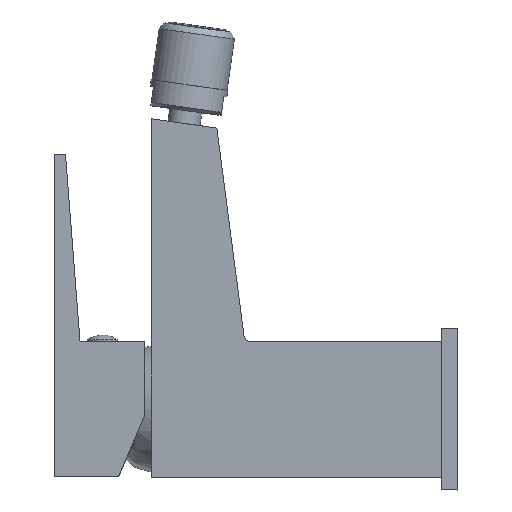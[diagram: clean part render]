
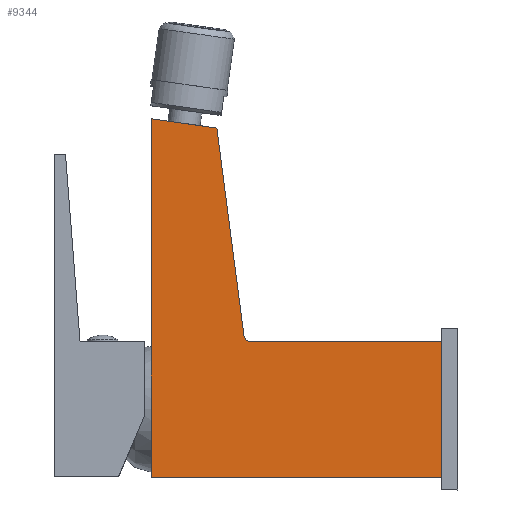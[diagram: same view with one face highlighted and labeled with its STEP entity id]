
A CAD part, left-side view. The second image highlights one B-rep face of the part: STEP entity #9344.
In plain terms, the highlighted planar face has unit normal (-1, 0, 0).
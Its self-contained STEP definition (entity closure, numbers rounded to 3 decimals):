
#414=PLANE('',#10185);
#818=FACE_OUTER_BOUND('',#1371,.T.);
#1371=EDGE_LOOP('',(#7773,#7774,#7775,#7776,#7777,#7778,#7779));
#1941=CIRCLE('',#10186,2.);
#2735=LINE('',#27104,#3330);
#2743=LINE('',#27125,#3338);
#2747=LINE('',#27133,#3342);
#2749=LINE('',#27138,#3344);
#2750=LINE('',#27140,#3345);
#2751=LINE('',#27141,#3346);
#3330=VECTOR('',#12119,10.);
#3338=VECTOR('',#12137,10.);
#3342=VECTOR('',#12143,10.);
#3344=VECTOR('',#12147,10.);
#3345=VECTOR('',#12148,10.);
#3346=VECTOR('',#12149,10.);
#4207=VERTEX_POINT('',#27102);
#4208=VERTEX_POINT('',#27103);
#4216=VERTEX_POINT('',#27124);
#4218=VERTEX_POINT('',#27130);
#4220=VERTEX_POINT('',#27136);
#4221=VERTEX_POINT('',#27137);
#4222=VERTEX_POINT('',#27139);
#5469=EDGE_CURVE('',#4207,#4208,#2735,.T.);
#5479=EDGE_CURVE('',#4216,#4207,#2743,.T.);
#5483=EDGE_CURVE('',#4208,#4218,#2747,.T.);
#5485=EDGE_CURVE('',#4220,#4221,#2749,.T.);
#5486=EDGE_CURVE('',#4221,#4222,#2750,.T.);
#5487=EDGE_CURVE('',#4222,#4216,#2751,.T.);
#5488=EDGE_CURVE('',#4220,#4218,#1941,.T.);
#7773=ORIENTED_EDGE('',*,*,#5485,.T.);
#7774=ORIENTED_EDGE('',*,*,#5486,.T.);
#7775=ORIENTED_EDGE('',*,*,#5487,.T.);
#7776=ORIENTED_EDGE('',*,*,#5479,.T.);
#7777=ORIENTED_EDGE('',*,*,#5469,.T.);
#7778=ORIENTED_EDGE('',*,*,#5483,.T.);
#7779=ORIENTED_EDGE('',*,*,#5488,.F.);
#9344=ADVANCED_FACE('',(#818),#414,.T.);
#10185=AXIS2_PLACEMENT_3D('',#27135,#12145,#12146);
#10186=AXIS2_PLACEMENT_3D('',#27142,#12150,#12151);
#12119=DIRECTION('',(0.,0.,1.));
#12137=DIRECTION('',(0.,-1.,0.));
#12143=DIRECTION('',(0.,1.,0.));
#12145=DIRECTION('center_axis',(-1.,0.,0.));
#12146=DIRECTION('ref_axis',(0.,1.,0.));
#12147=DIRECTION('',(0.,0.129,0.992));
#12148=DIRECTION('',(0.,0.99,0.139));
#12149=DIRECTION('',(0.,0.,-1.));
#12150=DIRECTION('center_axis',(-1.,0.,0.));
#12151=DIRECTION('ref_axis',(0.,0.,
-1.));
#27102=CARTESIAN_POINT('',(3.031,-75.75,-67.236));
#27103=CARTESIAN_POINT('',(3.031,-75.75,-25.236));
#27104=CARTESIAN_POINT('',(3.031,-75.75,-67.236));
#27124=CARTESIAN_POINT('',(3.031,14.25,-67.236));
#27125=CARTESIAN_POINT('',(3.031,14.25,-67.236));
#27130=CARTESIAN_POINT('',(3.031,-16.473,-25.236));
#27133=CARTESIAN_POINT('',(3.031,-75.75,-25.236));
#27135=CARTESIAN_POINT('Origin',(3.031,-30.75,43.764));
#27136=CARTESIAN_POINT('',(3.031,-14.49,-23.493));
#27137=CARTESIAN_POINT('',(3.031,-6.122,40.901));
#27138=CARTESIAN_POINT('',(3.031,-14.49,-23.493));
#27139=CARTESIAN_POINT('',(3.031,14.25,43.764));
#27140=CARTESIAN_POINT('',(3.031,-6.122,40.901));
#27141=CARTESIAN_POINT('',(3.031,14.25,43.764));
#27142=CARTESIAN_POINT('Origin',(3.031,-16.473,-23.236));
